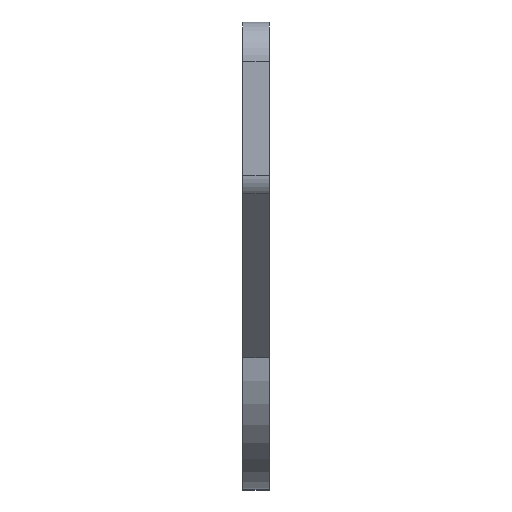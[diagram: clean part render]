
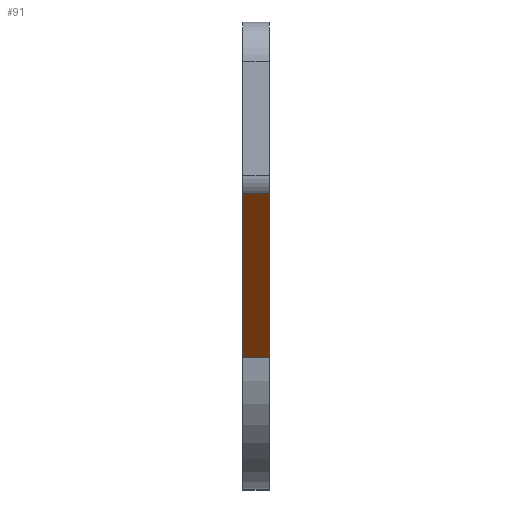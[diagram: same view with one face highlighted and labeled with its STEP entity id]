
A CAD part, top view. The second image highlights one B-rep face of the part: STEP entity #91.
In plain terms, the highlighted planar face has unit normal (0, -0.707, 0.707).
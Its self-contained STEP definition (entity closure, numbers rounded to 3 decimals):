
#52=CARTESIAN_POINT('Axis2P3D Location',(10.,-50.17,162.071)) ;
#57=CARTESIAN_POINT('Line Origine',(0.,-81.201,131.04)) ;
#61=CARTESIAN_POINT('Vertex',(0.,-50.17,162.071)) ;
#63=CARTESIAN_POINT('Vertex',(0.,-112.231,100.01)) ;
#66=CARTESIAN_POINT('Line Origine',(5.,-112.231,100.01)) ;
#70=CARTESIAN_POINT('Vertex',(10.,-112.231,100.01)) ;
#73=CARTESIAN_POINT('Line Origine',(10.,-81.201,131.04)) ;
#77=CARTESIAN_POINT('Vertex',(10.,-50.17,162.071)) ;
#80=CARTESIAN_POINT('Line Origine',(5.,-50.17,162.071)) ;
#53=DIRECTION('Axis2P3D Direction',(0.,0.707,-0.707)) ;
#54=DIRECTION('Axis2P3D XDirection',(-0.,-0.707,-0.707)) ;
#58=DIRECTION('Vector Direction',(0.,-0.707,-0.707)) ;
#67=DIRECTION('Vector Direction',(-1.,0.,0.)) ;
#74=DIRECTION('Vector Direction',(0.,-0.707,-0.707)) ;
#81=DIRECTION('Vector Direction',(-1.,0.,0.)) ;
#55=AXIS2_PLACEMENT_3D('Plane Axis2P3D',#52,#53,#54) ;
#86=ORIENTED_EDGE('',*,*,#65,.T.) ;
#87=ORIENTED_EDGE('',*,*,#72,.F.) ;
#88=ORIENTED_EDGE('',*,*,#79,.F.) ;
#89=ORIENTED_EDGE('',*,*,#84,.T.) ;
#59=VECTOR('Line Direction',#58,1.) ;
#68=VECTOR('Line Direction',#67,1.) ;
#75=VECTOR('Line Direction',#74,1.) ;
#82=VECTOR('Line Direction',#81,1.) ;
#91=ADVANCED_FACE('Body.2',(#90),#56,.F.) ;
#65=EDGE_CURVE('',#62,#64,#60,.T.) ;
#72=EDGE_CURVE('',#71,#64,#69,.T.) ;
#79=EDGE_CURVE('',#78,#71,#76,.T.) ;
#84=EDGE_CURVE('',#78,#62,#83,.T.) ;
#85=EDGE_LOOP('',(#86,#87,#88,#89)) ;
#90=FACE_OUTER_BOUND('',#85,.T.) ;
#60=LINE('Line',#57,#59) ;
#69=LINE('Line',#66,#68) ;
#76=LINE('Line',#73,#75) ;
#83=LINE('Line',#80,#82) ;
#56=PLANE('Plane',#55) ;
#62=VERTEX_POINT('',#61) ;
#64=VERTEX_POINT('',#63) ;
#71=VERTEX_POINT('',#70) ;
#78=VERTEX_POINT('',#77) ;
